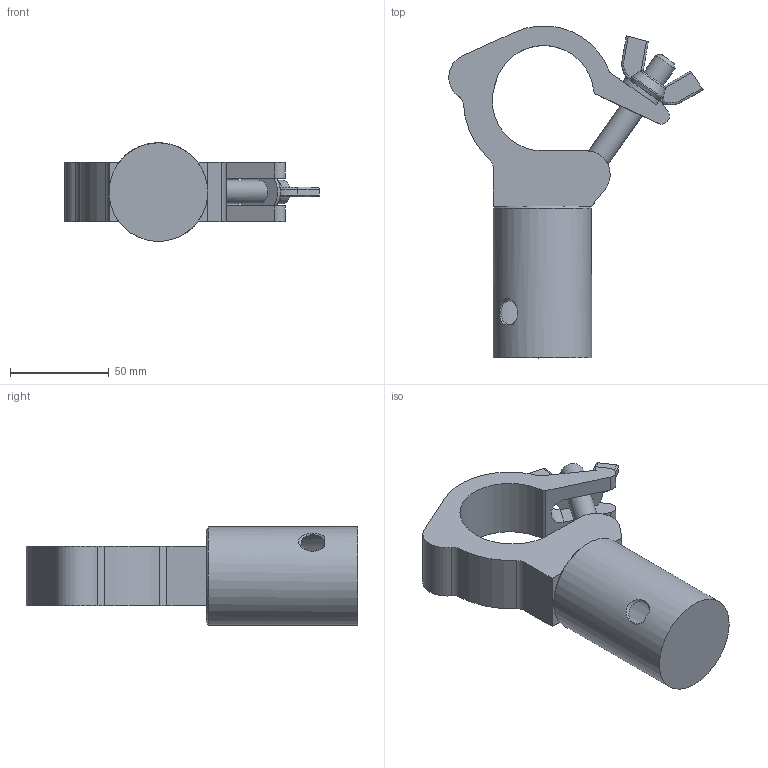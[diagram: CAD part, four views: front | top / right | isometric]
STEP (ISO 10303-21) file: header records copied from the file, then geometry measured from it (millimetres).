
FILE_DESCRIPTION(/* description */ (''),/* implementation_level */ '2;1');
FILE_NAME(/* name */ 'K:\Techniek\CAD Tekeningen\Inventor transport\Cas\Cad Blokken\Catalogus\CS1-DCxx\CS1-DC10.5S.stp',/* time_stamp */ '2021-08-02T10:57:06+02:00',/* author */ ('Cas'),/* organization */ (''),/* preprocessor_version */ 'ST-DEVELOPER v18',/* originating_system */ 'Autodesk Inventor 2020',/* authorisation */ '');
FILE_SCHEMA (('AUTOMOTIVE_DESIGN { 1 0 10303 214 3 1 1 }'));
Length unit declared in the file: millimetre
Products named in the file (1): CS1-DC10.5S
Bounding box: 129.05 x 168.33 x 49.92 mm (x, y, z)
Volume: 262909.8 mm3; surface area: 40549.7 mm2
Topology: 1 solids, 1 shells, 82 faces, 228 edges, 147 vertices
Faces by surface type: plane 38, cylinder 28, torus 8, cone 8
Full cylindrical faces by diameter (mm): 12 x2, 50 x1
Entity records: 3025 total; most frequent: CARTESIAN_POINT 738, ORIENTED_EDGE 464, DIRECTION 442, EDGE_CURVE 232, AXIS2_PLACEMENT_3D 167, VERTEX_POINT 147, LINE 108, VECTOR 108
